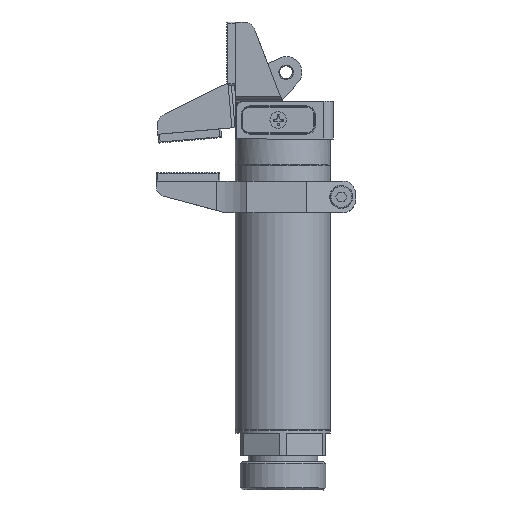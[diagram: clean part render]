
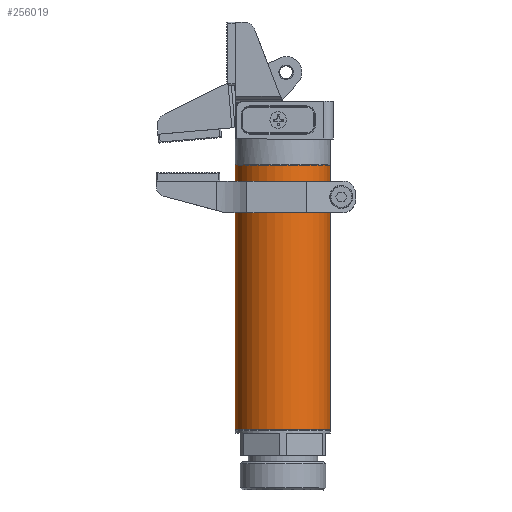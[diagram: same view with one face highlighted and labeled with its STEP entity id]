
A CAD part, left-side view. The second image highlights one B-rep face of the part: STEP entity #256019.
In plain terms, the highlighted cylindrical face has radius 15 mm (diameter 30 mm), a partial arc.
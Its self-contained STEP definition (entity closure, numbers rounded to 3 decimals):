
#1560 = DIRECTION ( 'NONE',  ( 0., -1., 0. ) ) ;
#7213 = ORIENTED_EDGE ( 'NONE', *, *, #248805, .T. ) ;
#23216 = CARTESIAN_POINT ( 'NONE',  ( 28., -119.157, -195.825 ) ) ;
#24973 = EDGE_LOOP ( 'NONE', ( #143242, #106102, #7213, #350889 ) ) ;
#34039 = VERTEX_POINT ( 'NONE', #390110 ) ;
#35517 = AXIS2_PLACEMENT_3D ( 'NONE', #387106, #194365, #1560 ) ;
#41388 = AXIS2_PLACEMENT_3D ( 'NONE', #55452, #280639, #87830 ) ;
#42748 = LINE ( 'NONE', #387737, #289561 ) ;
#51183 = AXIS2_PLACEMENT_3D ( 'NONE', #344213, #408892, #152682 ) ;
#55452 = CARTESIAN_POINT ( 'NONE',  ( 28., -104.157, -195.825 ) ) ;
#56044 = CYLINDRICAL_SURFACE ( 'NONE', #51183, 15. ) ;
#87830 = DIRECTION ( 'NONE',  ( 0., -1., 0. ) ) ;
#104104 = VERTEX_POINT ( 'NONE', #414930 ) ;
#106102 = ORIENTED_EDGE ( 'NONE', *, *, #368366, .T. ) ;
#143242 = ORIENTED_EDGE ( 'NONE', *, *, #145067, .T. ) ;
#145067 = EDGE_CURVE ( 'NONE', #305349, #161755, #317780, .T. ) ;
#152682 = DIRECTION ( 'NONE',  ( 0., 1., 0. ) ) ;
#156322 = EDGE_CURVE ( 'NONE', #305349, #34039, #42748, .T. ) ;
#161755 = VERTEX_POINT ( 'NONE', #23216 ) ;
#165407 = DIRECTION ( 'NONE',  ( 0., 0., 1. ) ) ;
#179934 = VECTOR ( 'NONE', #204044, 1000. ) ;
#194365 = DIRECTION ( 'NONE',  ( 0., 0., -1. ) ) ;
#204044 = DIRECTION ( 'NONE',  ( 0., 0., 1. ) ) ;
#217634 = CARTESIAN_POINT ( 'NONE',  ( 28., -89.157, -195.825 ) ) ;
#248805 = EDGE_CURVE ( 'NONE', #104104, #34039, #391364, .T. ) ;
#256019 = ADVANCED_FACE ( 'NONE', ( #257451 ), #56044, .T. ) ;
#257451 = FACE_OUTER_BOUND ( 'NONE', #24973, .T. ) ;
#280639 = DIRECTION ( 'NONE',  ( 0., 0., 1. ) ) ;
#289561 = VECTOR ( 'NONE', #165407, 1000. ) ;
#305349 = VERTEX_POINT ( 'NONE', #217634 ) ;
#317780 = CIRCLE ( 'NONE', #41388, 15. ) ;
#344213 = CARTESIAN_POINT ( 'NONE',  ( 28., -104.157, -104.025 ) ) ;
#350889 = ORIENTED_EDGE ( 'NONE', *, *, #156322, .F. ) ;
#351112 = LINE ( 'NONE', #396812, #179934 ) ;
#368366 = EDGE_CURVE ( 'NONE', #161755, #104104, #351112, .T. ) ;
#387106 = CARTESIAN_POINT ( 'NONE',  ( 28., -104.157, -112.325 ) ) ;
#387737 = CARTESIAN_POINT ( 'NONE',  ( 28., -89.157, -104.025 ) ) ;
#390110 = CARTESIAN_POINT ( 'NONE',  ( 28., -89.157, -112.325 ) ) ;
#391364 = CIRCLE ( 'NONE', #35517, 15. ) ;
#396812 = CARTESIAN_POINT ( 'NONE',  ( 28., -119.157, -104.025 ) ) ;
#408892 = DIRECTION ( 'NONE',  ( 0., 0., 1. ) ) ;
#414930 = CARTESIAN_POINT ( 'NONE',  ( 28., -119.157, -112.325 ) ) ;
